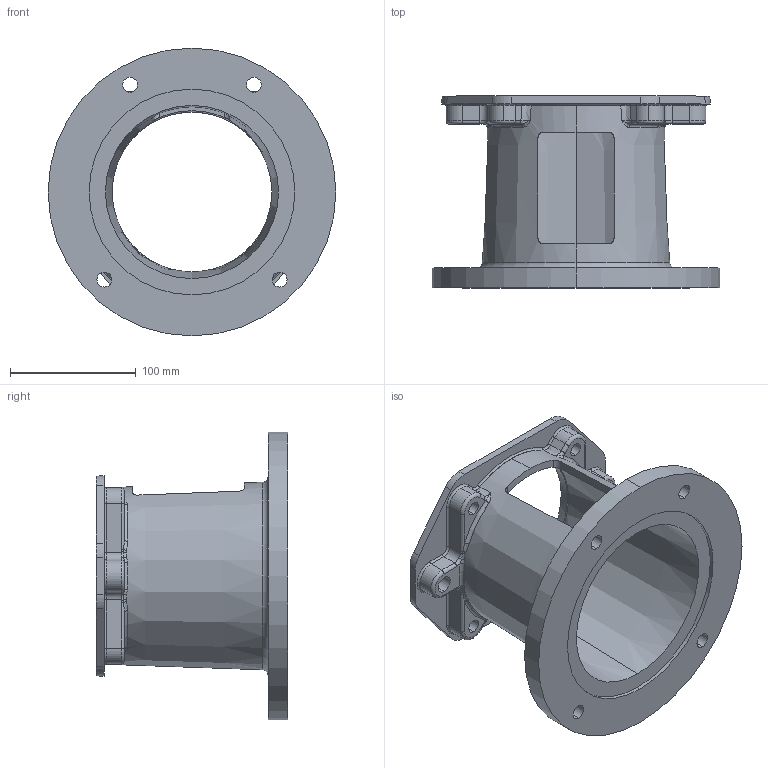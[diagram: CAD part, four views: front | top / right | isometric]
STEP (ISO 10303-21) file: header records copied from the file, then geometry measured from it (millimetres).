
FILE_DESCRIPTION (( 'STEP AP203' ), '1' );
FILE_NAME ('E644602C.STEP', '2014-11-03T18:46:30', ( '' ), ( '' ), 'SwSTEP 2.0', 'SolidWorks 2014', '' );
FILE_SCHEMA (( 'CONFIG_CONTROL_DESIGN' ));
Length unit declared in the file: inch
Products named in the file (1): E644602C
Bounding box: 228.6 x 152.4 x 228.6 mm (x, y, z)
Volume: 875042.2 mm3; surface area: 213975 mm2
Topology: 1 solids, 1 shells, 230 faces, 591 edges, 352 vertices
Faces by surface type: cylinder 74, bspline 56, torus 53, plane 35, sphere 8, cone 4
Entity records: 9189 total; most frequent: CARTESIAN_POINT 3864, ORIENTED_EDGE 1158, DIRECTION 1070, EDGE_CURVE 579, AXIS2_PLACEMENT_3D 464, VERTEX_POINT 352, CIRCLE 289, EDGE_LOOP 255
